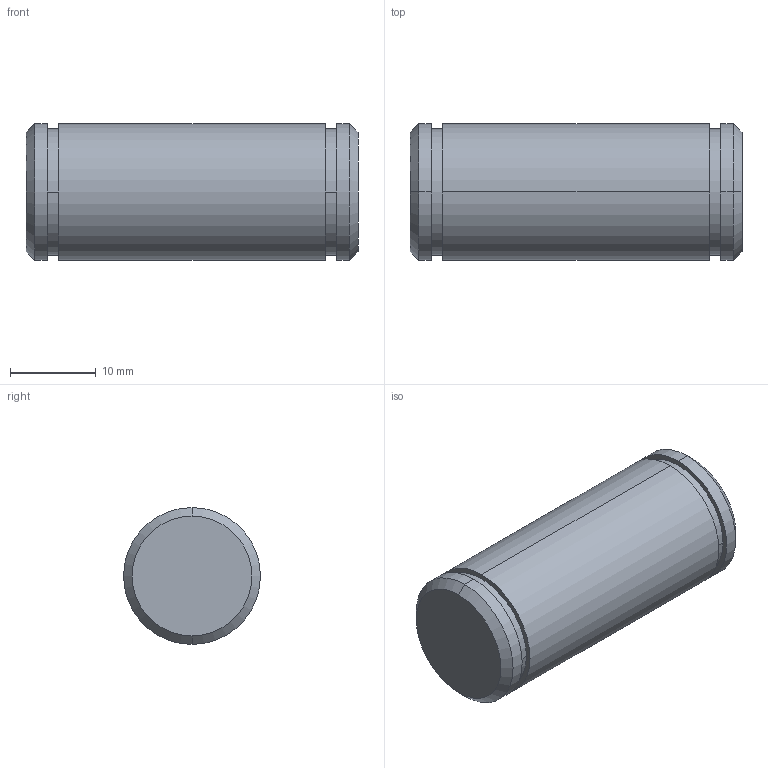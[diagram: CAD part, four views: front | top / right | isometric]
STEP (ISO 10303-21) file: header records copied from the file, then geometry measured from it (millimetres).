
FILE_DESCRIPTION (( 'STEP AP203' ), '1' );
FILE_NAME ('Bolzen Sicherungsring B M16.STEP', '2018-02-22T05:37:21', ( 'install' ), ( 'Hewlett-Packard Company' ), 'SwSTEP 2.0', 'SolidWorks 2017', '' );
FILE_SCHEMA (( 'CONFIG_CONTROL_DESIGN' ));
Length unit declared in the file: millimetre
Products named in the file (1): Bolzen Sicherungsring B M16
Bounding box: 38.8 x 16 x 16 mm (x, y, z)
Volume: 7677.6 mm3; surface area: 2397.2 mm2
Topology: 1 solids, 1 shells, 20 faces, 38 edges, 24 vertices
Faces by surface type: cylinder 10, plane 6, cone 4
Entity records: 591 total; most frequent: DIRECTION 104, CARTESIAN_POINT 83, ORIENTED_EDGE 76, AXIS2_PLACEMENT_3D 45, EDGE_CURVE 38, VERTEX_POINT 24, CIRCLE 24, EDGE_LOOP 24
